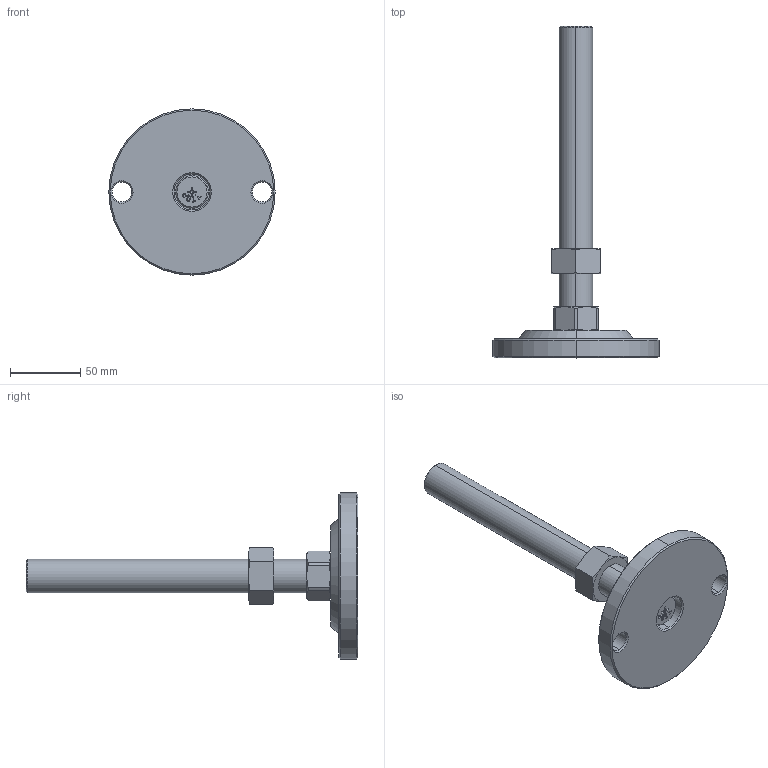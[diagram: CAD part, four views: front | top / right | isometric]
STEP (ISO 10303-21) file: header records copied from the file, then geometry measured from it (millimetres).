
FILE_DESCRIPTION (( 'STEP AP203' ), '1' );
FILE_NAME ('KL-120-24200-P.STEP', '2020-09-10T02:38:14', ( '' ), ( '' ), 'SwSTEP 2.0', 'SolidWorks 2016', '' );
FILE_SCHEMA (( 'CONFIG_CONTROL_DESIGN' ));
Length unit declared in the file: millimetre
Products named in the file (5): 脚垫调节六角螺母M24; 螺丝平底十字带商标M10系列_M10X14; KL-120-24200-P; KL-120-0.1 KL120菁釱; 眻芛蹟邡M24炵蹈_M24X200
Assembly tree (4 placements, depth 2):
  KL-120-24200-P
    KL-120-0.1 KL120菁釱
    眻芛蹟邡M24炵蹈_M24X200
    脚垫调节六角螺母M24
    螺丝平底十字带商标M10系列_M10X14
Bounding box: 118.5 x 236.5 x 118.5 mm (x, y, z)
Volume: 286593.7 mm3; surface area: 54064.8 mm2
Topology: 4 solids, 4 shells, 210 faces, 511 edges, 324 vertices
Faces by surface type: plane 101, cone 52, cylinder 33, bspline 24
Entity records: 8380 total; most frequent: CARTESIAN_POINT 3120, ORIENTED_EDGE 1014, DIRECTION 903, EDGE_CURVE 507, VERTEX_POINT 324, AXIS2_PLACEMENT_3D 307, VECTOR 289, LINE 289
